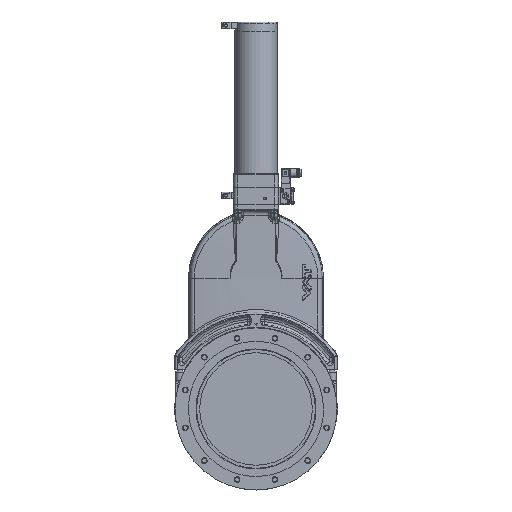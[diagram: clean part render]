
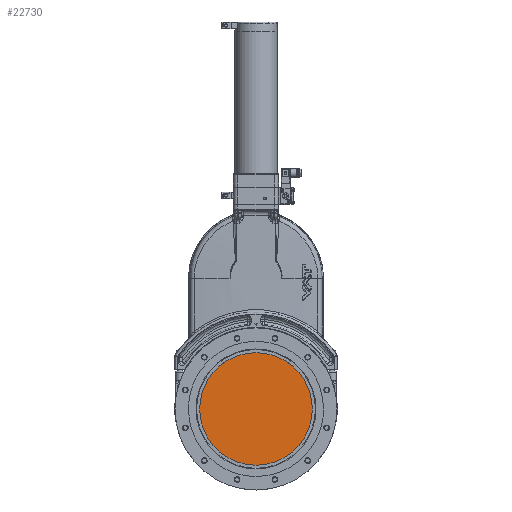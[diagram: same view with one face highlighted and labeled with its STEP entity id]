
A CAD part, top view. The second image highlights one B-rep face of the part: STEP entity #22730.
In plain terms, the highlighted planar face has unit normal (0, 0, 1).
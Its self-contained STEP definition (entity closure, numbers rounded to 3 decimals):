
#15073=FACE_OUTER_BOUND('',#26807,.T.);
#20263=PLANE('',#49743);
#22730=ADVANCED_FACE('',(#15073),#20263,.F.);
#26807=EDGE_LOOP('',(#30844));
#30844=ORIENTED_EDGE('',*,*,#42414,.T.);
#39145=VERTEX_POINT('',#61451);
#42414=EDGE_CURVE('',#39145,#39145,#47381,.T.);
#47381=CIRCLE('',#49036,100.075);
#49036=AXIS2_PLACEMENT_3D('',#61450,#52586,#52587);
#49743=AXIS2_PLACEMENT_3D('',#66322,#54218,#54219);
#52586=DIRECTION('',(0.,0.,1.));
#52587=DIRECTION('',(-1.,0.,0.));
#54218=DIRECTION('',(0.,0.,-1.));
#54219=DIRECTION('',(-1.,0.,0.));
#61450=CARTESIAN_POINT('',(0.,0.,
14.));
#61451=CARTESIAN_POINT('',(-100.075,0.,14.));
#66322=CARTESIAN_POINT('',(0.,0.,
14.));
